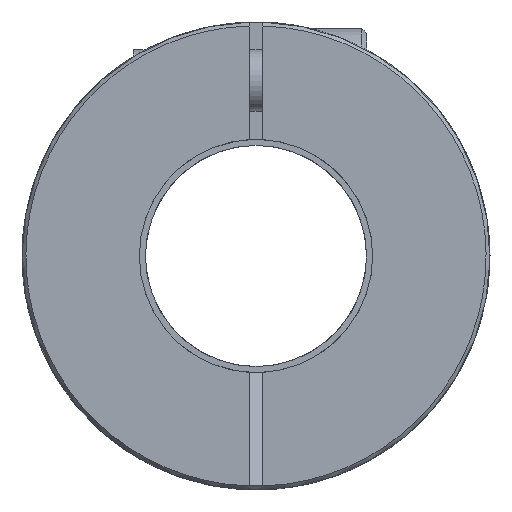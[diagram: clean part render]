
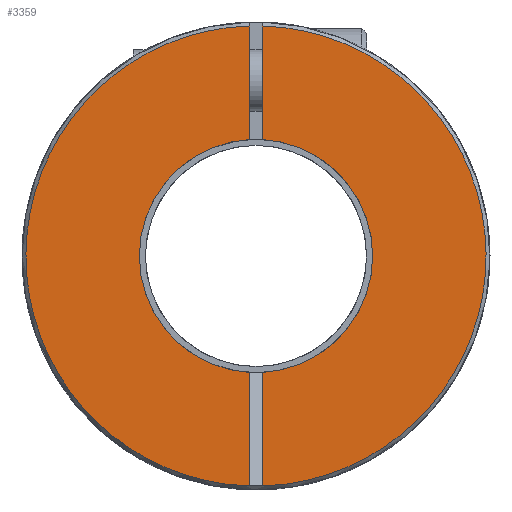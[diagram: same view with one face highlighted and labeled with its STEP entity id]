
A CAD part, front view. The second image highlights one B-rep face of the part: STEP entity #3359.
In plain terms, the highlighted planar face has unit normal (0, -1, 0).
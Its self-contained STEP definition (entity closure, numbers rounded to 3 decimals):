
#1=DIRECTION('',(0.,0.,-1.));
#2=VECTOR('',#1,9.237);
#3=CARTESIAN_POINT('',(-0.5,-33.35,18.723));
#4=LINE('',#3,#2);
#5=CARTESIAN_POINT('',(0.,-33.35,0.));
#6=DIRECTION('',(0.,1.,0.));
#7=DIRECTION('',(-1.,0.,0.));
#8=AXIS2_PLACEMENT_3D('',#5,#6,#7);
#10=CARTESIAN_POINT('',(0.,-33.35,0.));
#11=DIRECTION('',(0.,1.,0.));
#12=DIRECTION('',(-0.053,0.,-0.999));
#13=AXIS2_PLACEMENT_3D('',#10,#11,#12);
#15=DIRECTION('',(0.,0.,-1.));
#16=VECTOR('',#15,9.213);
#17=CARTESIAN_POINT('',(-0.5,-33.35,-9.487));
#18=LINE('',#17,#16);
#19=DIRECTION('',(1.,0.,0.));
#20=VECTOR('',#19,1.);
#21=CARTESIAN_POINT('',(-0.5,-33.35,-18.7));
#22=LINE('',#21,#20);
#23=DIRECTION('',(0.,0.,-1.));
#24=VECTOR('',#23,9.213);
#25=CARTESIAN_POINT('',(0.5,-33.35,-9.487));
#26=LINE('',#25,#24);
#27=DIRECTION('',(0.,0.,-1.));
#28=VECTOR('',#27,9.237);
#29=CARTESIAN_POINT('',(0.5,-33.35,18.723));
#30=LINE('',#29,#28);
#54=CARTESIAN_POINT('',(0.,-33.35,0.));
#55=DIRECTION('',(0.,1.,0.));
#56=DIRECTION('',(0.053,0.,0.999));
#57=AXIS2_PLACEMENT_3D('',#54,#55,#56);
#2849=CARTESIAN_POINT('',(0.,-33.35,0.));
#2850=DIRECTION('',(0.,-1.,0.));
#2851=DIRECTION('',(-0.027,0.,1.));
#2852=AXIS2_PLACEMENT_3D('',#2849,#2850,#2851);
#3001=CARTESIAN_POINT('',(-9.5,-33.35,0.));
#3002=VERTEX_POINT('',#3001);
#3082=CARTESIAN_POINT('',(-0.5,-33.35,-18.7));
#3084=VERTEX_POINT('',#3082);
#3086=CARTESIAN_POINT('',(0.5,-33.35,-18.7));
#3088=VERTEX_POINT('',#3086);
#3131=CARTESIAN_POINT('',(-0.5,-33.35,18.723));
#3132=CARTESIAN_POINT('',(-0.5,-33.35,9.487));
#3133=VERTEX_POINT('',#3131);
#3134=VERTEX_POINT('',#3132);
#3135=CARTESIAN_POINT('',(-0.5,-33.35,-9.487));
#3136=VERTEX_POINT('',#3135);
#3137=CARTESIAN_POINT('',(0.5,-33.35,18.723));
#3138=CARTESIAN_POINT('',(0.5,-33.35,9.487));
#3139=VERTEX_POINT('',#3137);
#3140=VERTEX_POINT('',#3138);
#3141=CARTESIAN_POINT('',(0.5,-33.35,-9.487));
#3142=VERTEX_POINT('',#3141);
#3334=CARTESIAN_POINT('',(0.,-33.35,0.));
#3335=DIRECTION('',(0.,1.,0.));
#3336=DIRECTION('',(1.,0.,0.));
#3337=AXIS2_PLACEMENT_3D('',#3334,#3335,#3336);
#3338=PLANE('',#3337);
#3340=ORIENTED_EDGE('',*,*,#3339,.T.);
#3342=ORIENTED_EDGE('',*,*,#3341,.F.);
#3344=ORIENTED_EDGE('',*,*,#3343,.F.);
#3346=ORIENTED_EDGE('',*,*,#3345,.T.);
#3348=ORIENTED_EDGE('',*,*,#3347,.T.);
#3350=ORIENTED_EDGE('',*,*,#3349,.F.);
#3352=ORIENTED_EDGE('',*,*,#3351,.F.);
#3354=ORIENTED_EDGE('',*,*,#3353,.F.);
#3356=ORIENTED_EDGE('',*,*,#3355,.F.);
#3357=EDGE_LOOP('',(#3340,#3342,#3344,#3346,#3348,#3350,#3352,#3354,#3356));
#3358=FACE_OUTER_BOUND('',#3357,.F.);
#3359=ADVANCED_FACE('',(#3358),#3338,.F.);
#9=CIRCLE('',#8,9.5);
#14=CIRCLE('',#13,9.5);
#58=CIRCLE('',#57,9.5);
#2853=CIRCLE('',#2852,18.73);
#3339=EDGE_CURVE('',#3133,#3134,#4,.T.);
#3341=EDGE_CURVE('',#3002,#3134,#9,.T.);
#3343=EDGE_CURVE('',#3136,#3002,#14,.T.);
#3345=EDGE_CURVE('',#3136,#3084,#18,.T.);
#3347=EDGE_CURVE('',#3084,#3088,#22,.T.);
#3349=EDGE_CURVE('',#3142,#3088,#26,.T.);
#3351=EDGE_CURVE('',#3140,#3142,#58,.T.);
#3353=EDGE_CURVE('',#3139,#3140,#30,.T.);
#3355=EDGE_CURVE('',#3133,#3139,#2853,.T.);
